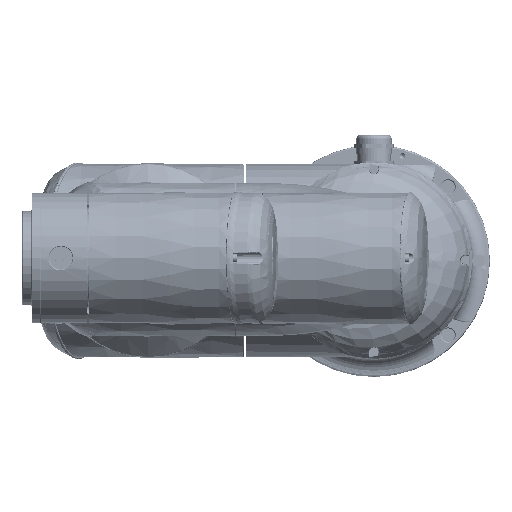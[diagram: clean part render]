
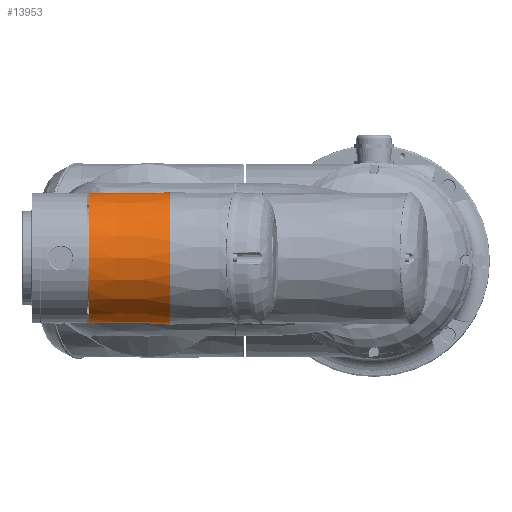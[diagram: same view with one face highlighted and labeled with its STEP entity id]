
A CAD part, top view. The second image highlights one B-rep face of the part: STEP entity #13953.
In plain terms, the highlighted conical face has half-angle 0.5 degrees and reference radius 44 mm.
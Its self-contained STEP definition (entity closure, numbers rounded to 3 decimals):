
#2439=CONICAL_SURFACE('',#63333,44.,0.5);
#13953=ADVANCED_FACE('',(#18292),#2439,.T.);
#18292=FACE_OUTER_BOUND('',#21820,.T.);
#21820=EDGE_LOOP('',(#30585,#30586,#30587,#30588,#30589,#30590,#30591,#30592,
#30593,#30594,#30595,#30596,#30597,#30598,#30599,#30600));
#26376=CIRCLE('',#63326,43.526);
#26377=CIRCLE('',#63328,44.);
#26378=CIRCLE('',#63329,43.526);
#26379=CIRCLE('',#63330,43.577);
#26380=CIRCLE('',#63331,43.526);
#26381=CIRCLE('',#63332,43.577);
#30585=ORIENTED_EDGE('',*,*,#52611,.F.);
#30586=ORIENTED_EDGE('',*,*,#52610,.T.);
#30587=ORIENTED_EDGE('',*,*,#52612,.T.);
#30588=ORIENTED_EDGE('',*,*,#52613,.T.);
#30589=ORIENTED_EDGE('',*,*,#52614,.T.);
#30590=ORIENTED_EDGE('',*,*,#52615,.F.);
#30591=ORIENTED_EDGE('',*,*,#52616,.T.);
#30592=ORIENTED_EDGE('',*,*,#52617,.T.);
#30593=ORIENTED_EDGE('',*,*,#52618,.T.);
#30594=ORIENTED_EDGE('',*,*,#52619,.T.);
#30595=ORIENTED_EDGE('',*,*,#52620,.F.);
#30596=ORIENTED_EDGE('',*,*,#52621,.T.);
#30597=ORIENTED_EDGE('',*,*,#52622,.F.);
#30598=ORIENTED_EDGE('',*,*,#52623,.T.);
#30599=ORIENTED_EDGE('',*,*,#52624,.F.);
#30600=ORIENTED_EDGE('',*,*,#52625,.F.);
#46502=VERTEX_POINT('',#100630);
#46504=VERTEX_POINT('',#100637);
#46505=VERTEX_POINT('',#100644);
#46506=VERTEX_POINT('',#100649);
#46507=VERTEX_POINT('',#100654);
#46508=VERTEX_POINT('',#100661);
#46509=VERTEX_POINT('',#100663);
#46510=VERTEX_POINT('',#100670);
#46511=VERTEX_POINT('',#100675);
#46512=VERTEX_POINT('',#100680);
#46513=VERTEX_POINT('',#100682);
#46514=VERTEX_POINT('',#100687);
#46515=VERTEX_POINT('',#100689);
#46516=VERTEX_POINT('',#100694);
#46517=VERTEX_POINT('',#100696);
#46518=VERTEX_POINT('',#100701);
#52610=EDGE_CURVE('',#46502,#46504,#26376,.T.);
#52611=EDGE_CURVE('',#46502,#46505,#60504,.T.);
#52612=EDGE_CURVE('',#46504,#46506,#60505,.T.);
#52613=EDGE_CURVE('',#46506,#46507,#60506,.T.);
#52614=EDGE_CURVE('',#46507,#46508,#60507,.T.);
#52615=EDGE_CURVE('',#46509,#46508,#26377,.T.);
#52616=EDGE_CURVE('',#46509,#46510,#60508,.T.);
#52617=EDGE_CURVE('',#46510,#46511,#60509,.T.);
#52618=EDGE_CURVE('',#46511,#46512,#60510,.T.);
#52619=EDGE_CURVE('',#46512,#46513,#26378,.T.);
#52620=EDGE_CURVE('',#46514,#46513,#60511,.T.);
#52621=EDGE_CURVE('',#46514,#46515,#26379,.T.);
#52622=EDGE_CURVE('',#46516,#46515,#60512,.T.);
#52623=EDGE_CURVE('',#46516,#46517,#26380,.T.);
#52624=EDGE_CURVE('',#46518,#46517,#60513,.T.);
#52625=EDGE_CURVE('',#46505,#46518,#26381,.T.);
#60504=B_SPLINE_CURVE_WITH_KNOTS('',3,(#100640,#100641,#100642,#100643),
 .UNSPECIFIED.,.F.,.F.,(4,4),(0.,1.),.UNSPECIFIED.);
#60505=B_SPLINE_CURVE_WITH_KNOTS('',3,(#100645,#100646,#100647,#100648),
 .UNSPECIFIED.,.F.,.F.,(4,4),(0.,1.),.UNSPECIFIED.);
#60506=B_SPLINE_CURVE_WITH_KNOTS('',3,(#100650,#100651,#100652,#100653),
 .UNSPECIFIED.,.F.,.F.,(4,4),(0.,1.),.UNSPECIFIED.);
#60507=B_SPLINE_CURVE_WITH_KNOTS('',3,(#100655,#100656,#100657,#100658,
#100659,#100660),.UNSPECIFIED.,.F.,.F.,(4,2,4),(0.,0.5,1.),
 .UNSPECIFIED.);
#60508=B_SPLINE_CURVE_WITH_KNOTS('',3,(#100664,#100665,#100666,#100667,
#100668,#100669),.UNSPECIFIED.,.F.,.F.,(4,2,4),(0.,0.5,1.),
 .UNSPECIFIED.);
#60509=B_SPLINE_CURVE_WITH_KNOTS('',3,(#100671,#100672,#100673,#100674),
 .UNSPECIFIED.,.F.,.F.,(4,4),(0.,1.),.UNSPECIFIED.);
#60510=B_SPLINE_CURVE_WITH_KNOTS('',3,(#100676,#100677,#100678,#100679),
 .UNSPECIFIED.,.F.,.F.,(4,4),(0.,1.),.UNSPECIFIED.);
#60511=B_SPLINE_CURVE_WITH_KNOTS('',3,(#100683,#100684,#100685,#100686),
 .UNSPECIFIED.,.F.,.F.,(4,4),(0.,1.),.UNSPECIFIED.);
#60512=B_SPLINE_CURVE_WITH_KNOTS('',3,(#100690,#100691,#100692,#100693),
 .UNSPECIFIED.,.F.,.F.,(4,4),(0.,1.),.UNSPECIFIED.);
#60513=B_SPLINE_CURVE_WITH_KNOTS('',3,(#100697,#100698,#100699,#100700),
 .UNSPECIFIED.,.F.,.F.,(4,4),(0.,1.),.UNSPECIFIED.);
#63326=AXIS2_PLACEMENT_3D('',#100638,#70487,#70488);
#63328=AXIS2_PLACEMENT_3D('',#100662,#70491,#70492);
#63329=AXIS2_PLACEMENT_3D('',#100681,#70493,#70494);
#63330=AXIS2_PLACEMENT_3D('',#100688,#70495,#70496);
#63331=AXIS2_PLACEMENT_3D('',#100695,#70497,#70498);
#63332=AXIS2_PLACEMENT_3D('',#100702,#70499,#70500);
#63333=AXIS2_PLACEMENT_3D('',#100703,#70501,#70502);
#70487=DIRECTION('',(1.,0.,0.));
#70488=DIRECTION('',(0.,0.,-1.));
#70491=DIRECTION('',(1.,0.,0.));
#70492=DIRECTION('',(0.,0.,1.));
#70493=DIRECTION('',(1.,0.,0.));
#70494=DIRECTION('',(0.,0.,-1.));
#70495=DIRECTION('',(1.,0.,0.));
#70496=DIRECTION('',(0.,0.,1.));
#70497=DIRECTION('',(1.,0.,0.));
#70498=DIRECTION('',(0.,0.,-1.));
#70499=DIRECTION('',(-1.,0.,0.));
#70500=DIRECTION('',(0.,0.,1.));
#70501=DIRECTION('',(1.,0.,0.));
#70502=DIRECTION('',(0.,0.,1.));
#100630=CARTESIAN_POINT('',(-190.3,-43.523,1099.477));
#100637=CARTESIAN_POINT('',(-190.3,-18.936,1060.809));
#100638=CARTESIAN_POINT('',(-190.3,0.,1100.));
#100640=CARTESIAN_POINT('',(-190.3,-43.523,1099.477));
#100641=CARTESIAN_POINT('',(-188.367,-43.54,1099.46));
#100642=CARTESIAN_POINT('',(-186.433,-43.556,1099.444));
#100643=CARTESIAN_POINT('',(-184.5,-43.573,1099.427));
#100644=CARTESIAN_POINT('',(-184.5,-43.573,1099.427));
#100645=CARTESIAN_POINT('',(-190.3,-18.936,1060.809));
#100646=CARTESIAN_POINT('',(-187.694,-22.799,1062.65));
#100647=CARTESIAN_POINT('',(-184.598,-25.994,1064.835));
#100648=CARTESIAN_POINT('',(-181.19,-28.767,1067.23));
#100649=CARTESIAN_POINT('',(-181.19,-28.767,1067.23));
#100650=CARTESIAN_POINT('',(-181.19,-28.767,1067.23));
#100651=CARTESIAN_POINT('',(-179.298,-30.307,1068.56));
#100652=CARTESIAN_POINT('',(-177.148,-31.58,1069.839));
#100653=CARTESIAN_POINT('',(-174.839,-32.633,1070.993));
#100654=CARTESIAN_POINT('',(-174.839,-32.633,1070.993));
#100655=CARTESIAN_POINT('',(-174.839,-32.633,1070.993));
#100656=CARTESIAN_POINT('',(-169.099,-35.25,1073.862));
#100657=CARTESIAN_POINT('',(-162.929,-37.112,1076.671));
#100658=CARTESIAN_POINT('',(-149.918,-39.611,1080.962));
#100659=CARTESIAN_POINT('',(-143.013,-40.25,1082.378));
#100660=CARTESIAN_POINT('',(-136.,-40.292,1082.321));
#100661=CARTESIAN_POINT('',(-136.,-40.292,1082.321));
#100662=CARTESIAN_POINT('',(-136.,0.,1100.));
#100663=CARTESIAN_POINT('',(-136.,40.292,1082.321));
#100664=CARTESIAN_POINT('',(-136.,40.292,1082.321));
#100665=CARTESIAN_POINT('',(-143.01,40.25,1082.378));
#100666=CARTESIAN_POINT('',(-149.929,39.608,1080.958));
#100667=CARTESIAN_POINT('',(-162.907,37.117,1076.679));
#100668=CARTESIAN_POINT('',(-169.089,35.254,1073.867));
#100669=CARTESIAN_POINT('',(-174.839,32.633,1070.993));
#100670=CARTESIAN_POINT('',(-174.839,32.633,1070.993));
#100671=CARTESIAN_POINT('',(-174.839,32.633,1070.993));
#100672=CARTESIAN_POINT('',(-177.16,31.575,1069.834));
#100673=CARTESIAN_POINT('',(-179.288,30.316,1068.567));
#100674=CARTESIAN_POINT('',(-181.19,28.767,1067.23));
#100675=CARTESIAN_POINT('',(-181.19,28.767,1067.23));
#100676=CARTESIAN_POINT('',(-181.19,28.767,1067.23));
#100677=CARTESIAN_POINT('',(-184.587,26.003,1064.842));
#100678=CARTESIAN_POINT('',(-187.729,22.747,1062.625));
#100679=CARTESIAN_POINT('',(-190.3,18.936,1060.809));
#100680=CARTESIAN_POINT('',(-190.3,18.936,1060.809));
#100681=CARTESIAN_POINT('',(-190.3,0.,1100.));
#100682=CARTESIAN_POINT('',(-190.3,43.523,1099.477));
#100683=CARTESIAN_POINT('',(-184.5,43.573,1099.427));
#100684=CARTESIAN_POINT('',(-186.433,43.556,1099.444));
#100685=CARTESIAN_POINT('',(-188.367,43.54,1099.46));
#100686=CARTESIAN_POINT('',(-190.3,43.523,1099.477));
#100687=CARTESIAN_POINT('',(-184.5,43.573,1099.427));
#100688=CARTESIAN_POINT('',(-184.5,0.,1100.));
#100689=CARTESIAN_POINT('',(-184.5,43.573,1100.573));
#100690=CARTESIAN_POINT('',(-190.3,43.523,1100.523));
#100691=CARTESIAN_POINT('',(-188.367,43.54,1100.54));
#100692=CARTESIAN_POINT('',(-186.433,43.556,1100.556));
#100693=CARTESIAN_POINT('',(-184.5,43.573,1100.573));
#100694=CARTESIAN_POINT('',(-190.3,43.523,1100.523));
#100695=CARTESIAN_POINT('',(-190.3,0.,1100.));
#100696=CARTESIAN_POINT('',(-190.3,-43.523,1100.523));
#100697=CARTESIAN_POINT('',(-184.5,-43.573,1100.573));
#100698=CARTESIAN_POINT('',(-186.433,-43.556,1100.556));
#100699=CARTESIAN_POINT('',(-188.367,-43.54,1100.54));
#100700=CARTESIAN_POINT('',(-190.3,-43.523,1100.523));
#100701=CARTESIAN_POINT('',(-184.5,-43.573,1100.573));
#100702=CARTESIAN_POINT('',(-184.5,0.,1100.));
#100703=CARTESIAN_POINT('',(-136.,0.,1100.));
